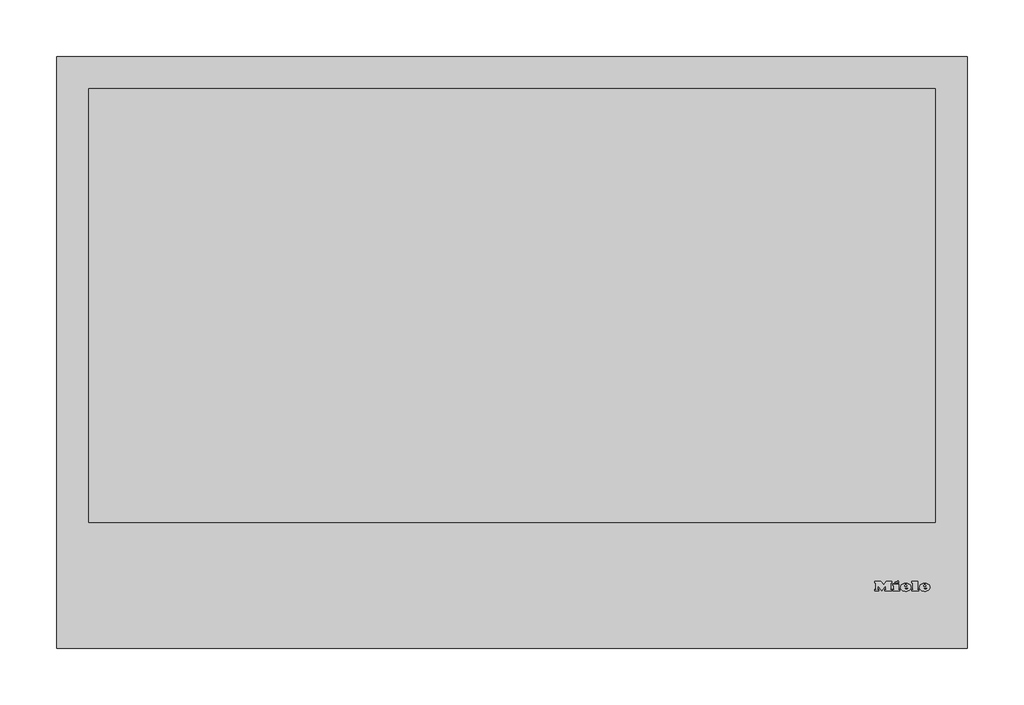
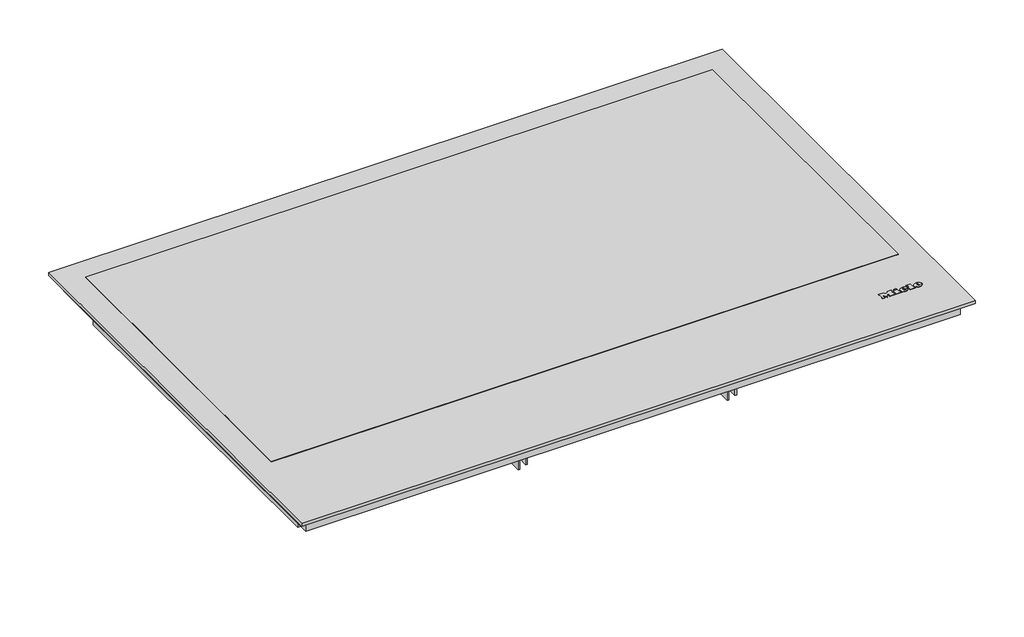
# Not in any storey: 1 proxy.
"""IFC4 building model written with IfcOpenShell, lengths in millimetres."""

import ifcopenshell
import ifcopenshell.guid

model = None  # the IFC model being written
_history = None  # IfcOwnerHistory: only IFC2X3 demands one
_inside = {}  # id of a spatial element -> (the spatial element, [elements in it])
_under = {}  # id of a project, library or spatial element -> (it, [spatial elements below it])
_declared = {}  # id of a project -> (the project, [libraries it declares])
_typed = {}  # id of a type object -> (the type object, [elements of that type])
_made_of = {}  # id of a material, layer set ... -> (it, [elements and type objects made of it])


def new_model(schema):
    """Start an empty IFC model of exactly this schema.

    Asked for "IFC4X3", IfcOpenShell would pick the latest addendum, in which some entities
    have other attributes; the version numbers below select the first issue.
    IFC2X3 requires an IfcOwnerHistory on every rooted entity: one is made here for all.
    """
    global model, _history
    if schema == "IFC4X3":
        model = ifcopenshell.file(schema_version=(4, 3, 0, 0))
    else:
        model = ifcopenshell.file(schema=schema)
    _inside.clear()
    _under.clear()
    _declared.clear()
    _typed.clear()
    _made_of.clear()
    _history = None
    if model.schema == "IFC2X3":
        org = make("IfcOrganization", Name="unknown")
        user = make(
            "IfcPersonAndOrganization",
            ThePerson=make("IfcPerson", FamilyName="unknown"),
            TheOrganization=org,
        )
        app = make(
            "IfcApplication",
            ApplicationDeveloper=org,
            Version="unknown",
            ApplicationFullName="unknown",
            ApplicationIdentifier="unknown",
        )
        _history = make(
            "IfcOwnerHistory",
            OwningUser=user,
            OwningApplication=app,
            ChangeAction="ADDED",
            CreationDate=0,
        )
    return model


def make(cls, **values):
    """One entity of the class cls with the attributes given. An attribute that is None is left unset."""
    return model.create_entity(
        cls, **{name: value for name, value in values.items() if value is not None}
    )


def rooted(cls, **values):
    """An entity with a GlobalId (a new one), such as an element, a storey or a relation."""
    return make(cls, GlobalId=ifcopenshell.guid.new(), OwnerHistory=_history, **values)


def si_unit(unit_type, name, prefix=None):
    """IfcSIUnit, for example si_unit("LENGTHUNIT", "METRE", prefix="MILLI")."""
    return make("IfcSIUnit", UnitType=unit_type, Prefix=prefix, Name=name)


def assignment(units):
    """IfcUnitAssignment: the units of a project."""
    return None if units is None else make("IfcUnitAssignment", Units=units)


def point(xyz):
    """IfcCartesianPoint."""
    return None if xyz is None else make("IfcCartesianPoint", Coordinates=xyz)


def direction(xyz):
    """IfcDirection."""
    return None if xyz is None else make("IfcDirection", DirectionRatios=xyz)


def frame(location, z_axis=None, x_axis=None):
    """IfcAxis2Placement3D, a coordinate frame: its origin and axes. An axis left out is left unset."""
    return make(
        "IfcAxis2Placement3D",
        Location=point(location),
        Axis=direction(z_axis),
        RefDirection=direction(x_axis),
    )


def frame_2d(location, x_axis=None):
    """IfcAxis2Placement2D, a coordinate frame in the plane: its origin and x axis."""
    return make(
        "IfcAxis2Placement2D", Location=point(location), RefDirection=direction(x_axis)
    )


def origin():
    """The frame at (0, 0, 0) with its axes left unset."""
    return frame((0.0, 0.0, 0.0))


def origin_with_axes():
    """The frame at (0, 0, 0) with the z axis (0, 0, 1) and the x axis (1, 0, 0) written out."""
    return frame((0.0, 0.0, 0.0), z_axis=(0.0, 0.0, 1.0), x_axis=(1.0, 0.0, 0.0))


def place(relative_to, where):
    """IfcLocalPlacement: puts the frame where relative to a parent placement (None: the world)."""
    return make(
        "IfcLocalPlacement", PlacementRelTo=relative_to, RelativePlacement=where
    )


def context(
    kind, dimensions, precision=None, world=None, true_north=None, identifier=None
):
    """IfcGeometricRepresentationContext, for example the 3D "Model" context."""
    return make(
        "IfcGeometricRepresentationContext",
        ContextIdentifier=identifier,
        ContextType=kind,
        CoordinateSpaceDimension=dimensions,
        Precision=precision,
        WorldCoordinateSystem=world,
        TrueNorth=true_north,
    )


def project(units=None, contexts=None):
    """IfcProject with its units and contexts."""
    return rooted(
        "IfcProject",
        Name="project",
        RepresentationContexts=contexts,
        UnitsInContext=assignment(units),
    )


def spatial(cls, under=None, at=None, **own):
    """A site, building, storey or space (cls), placed at a placement, below another one or the project."""
    s = rooted(cls, ObjectPlacement=at, **own)
    if under is not None:
        _under.setdefault(under.id(), (under, []))[1].append(s)
    return s


def polyline(points):
    """IfcPolyline through the points."""
    return make("IfcPolyline", Points=[point(p) for p in points])


def circle_curve(where, radius):
    """IfcCircle in the frame where."""
    return make("IfcCircle", Position=where, Radius=radius)


def ellipse_curve(where, semi_axis1, semi_axis2):
    """IfcEllipse in the frame where."""
    return make(
        "IfcEllipse", Position=where, SemiAxis1=semi_axis1, SemiAxis2=semi_axis2
    )


def trimmed(basis, trim1, trim2, sense, master):
    """IfcTrimmedCurve: the piece of a basis curve between two trims."""
    return make(
        "IfcTrimmedCurve",
        BasisCurve=basis,
        Trim1=trim1,
        Trim2=trim2,
        SenseAgreement=sense,
        MasterRepresentation=master,
    )


def segment(curve, same_sense, transition):
    """IfcCompositeCurveSegment."""
    return make(
        "IfcCompositeCurveSegment",
        Transition=transition,
        SameSense=same_sense,
        ParentCurve=curve,
    )


def composite_curve(segments, self_intersect=None):
    """IfcCompositeCurve: segments joined end to end."""
    return make("IfcCompositeCurve", Segments=segments, SelfIntersect=self_intersect)


def outline(outer, holes=None, kind="AREA"):
    """IfcArbitraryClosedProfileDef: a profile drawn as a closed curve; with holes, ...WithVoids."""
    if holes is None:
        return make("IfcArbitraryClosedProfileDef", ProfileType=kind, OuterCurve=outer)
    return make(
        "IfcArbitraryProfileDefWithVoids",
        ProfileType=kind,
        OuterCurve=outer,
        InnerCurves=holes,
    )


def extrude(swept, where, along, depth):
    """IfcExtrudedAreaSolid: the profile swept, set in the frame where, extruded along a direction by depth."""
    return make(
        "IfcExtrudedAreaSolid",
        SweptArea=swept,
        Position=where,
        ExtrudedDirection=direction(along),
        Depth=depth,
    )


def shape(context_of_items, identifier, shape_type, items):
    """IfcShapeRepresentation: the items that make up one representation, for example the "Body"."""
    return make(
        "IfcShapeRepresentation",
        ContextOfItems=context_of_items,
        RepresentationIdentifier=identifier,
        RepresentationType=shape_type,
        Items=items,
    )


def source(mapping_origin, context_of_items, identifier, shape_type, items):
    """IfcRepresentationMap: a shape defined once, which mapped items show again and again."""
    return make(
        "IfcRepresentationMap",
        MappingOrigin=mapping_origin,
        MappedRepresentation=shape(context_of_items, identifier, shape_type, items),
    )


def transform(
    local_origin,
    x_axis=None,
    y_axis=None,
    z_axis=None,
    scale=None,
    scale2=None,
    scale3=None,
    uniform=True,
):
    """IfcCartesianTransformationOperator3D, or its non-uniform kind. x_axis, y_axis, z_axis: its Axis1, 2, 3."""
    if uniform:
        return make(
            "IfcCartesianTransformationOperator3D",
            Axis1=direction(x_axis),
            Axis2=direction(y_axis),
            LocalOrigin=point(local_origin),
            Scale=scale,
            Axis3=direction(z_axis),
        )
    return make(
        "IfcCartesianTransformationOperator3DnonUniform",
        Axis1=direction(x_axis),
        Axis2=direction(y_axis),
        LocalOrigin=point(local_origin),
        Scale=scale,
        Axis3=direction(z_axis),
        Scale2=scale2,
        Scale3=scale3,
    )


def mapped(mapping_source, mapping_target):
    """IfcMappedItem: shows the shape of a source again, moved by a transform."""
    return make(
        "IfcMappedItem", MappingSource=mapping_source, MappingTarget=mapping_target
    )


def made_of(thing, what):
    """Note that an element or type object is made of a material, layer set ...; save() writes the relation."""
    if what is not None:
        _made_of.setdefault(what.id(), (what, []))[1].append(thing)
    return thing


def element(
    cls,
    number,
    at=None,
    inside=None,
    cuts=None,
    type_object=None,
    material=None,
    context=None,
    identifier="Body",
    shape_type=None,
    held_by="IfcProductDefinitionShape",
    body=None,
    shapes=None,
    **own,
):
    """One element of the class cls, such as IfcWall. Its Tag is "e" and its number.

    at: its placement. inside: the storey or other place that contains it. cuts: it is an
    opening in that element (IfcRelVoidsElement). A single representation is given by context,
    identifier, shape_type and body (its items); several are given by shapes. held_by: the class
    of the entity that holds the representations. save() writes the other relations.
    """
    e = rooted(cls, Tag="e%d" % number, ObjectPlacement=at, **own)
    if body is not None:
        shapes = [shape(context, identifier, shape_type, body)]
    if shapes is not None:
        e.Representation = make(held_by, Representations=shapes)
    if inside is not None:
        _inside.setdefault(inside.id(), (inside, []))[1].append(e)
    if cuts is not None:
        rooted(
            "IfcRelVoidsElement", RelatingBuildingElement=cuts, RelatedOpeningElement=e
        )
    if type_object is not None:
        _typed.setdefault(type_object.id(), (type_object, []))[1].append(e)
    return made_of(e, material)


def aggregate(whole, parts):
    """IfcRelAggregates: a whole, such as a stair, and the parts it consists of."""
    return rooted("IfcRelAggregates", RelatingObject=whole, RelatedObjects=parts)


def save(model, path):
    """Write the relations noted so far, then the file.

    IfcRelAggregates (storeys below a building ...), IfcRelContainedInSpatialStructure (elements
    in a storey), IfcRelDefinesByType, IfcRelAssociatesMaterial and IfcRelDeclares: one each for
    every whole, place, type object, material and project.
    """
    for whole, parts in _under.values():
        aggregate(whole, parts)
    for where, things in _inside.values():
        rooted(
            "IfcRelContainedInSpatialStructure",
            RelatedElements=things,
            RelatingStructure=where,
        )
    for kind, things in _typed.values():
        rooted("IfcRelDefinesByType", RelatedObjects=things, RelatingType=kind)
    for what, things in _made_of.values():
        rooted("IfcRelAssociatesMaterial", RelatedObjects=things, RelatingMaterial=what)
    for by, libraries in _declared.values():
        rooted("IfcRelDeclares", RelatingContext=by, RelatedDefinitions=libraries)
    model.write(path)


def plane_surface(at):
    """IfcPlane: the flat surface through the origin of the frame at, square to its z axis."""
    return make("IfcPlane", Position=at)


def cylinder_surface(at, radius):
    """IfcCylindricalSurface: all points at the distance radius from the z axis of the frame at."""
    return make("IfcCylindricalSurface", Position=at, Radius=radius)


def revolved_surface(curve, axis_point, axis_direction):
    """IfcSurfaceOfRevolution: the curve turned about the line through axis_point along axis_direction."""
    return make(
        "IfcSurfaceOfRevolution",
        SweptCurve=make("IfcArbitraryOpenProfileDef", ProfileType="CURVE", Curve=curve),
        AxisPosition=make("IfcAxis1Placement", Location=point(axis_point), Axis=direction(axis_direction)),
    )


def extruded_surface(curve, direction_of_extrusion, depth):
    """IfcSurfaceOfLinearExtrusion: the curve pushed along a direction by depth."""
    return make(
        "IfcSurfaceOfLinearExtrusion",
        SweptCurve=make("IfcArbitraryOpenProfileDef", ProfileType="CURVE", Curve=curve),
        ExtrudedDirection=direction(direction_of_extrusion),
        Depth=depth,
    )


def advanced_brep(points, edges, surfaces, faces):
    """IfcAdvancedBrep: a solid bounded by faces that lie on surfaces and meet in shared edges.

    An edge is (start, end): straight between two places in points (the first is 0);
    or (start, end, curve); or (start, end, curve, False) where it runs against its curve.
    A face is (place in surfaces, loops), or (place, loops, False) where it looks against
    its surface's normal. A loop lists edges by number (the first is 1), with a minus sign
    where the edge is run from its end to its start. The first loop is the outer one.
    """
    corners = [point(p) for p in points]
    vertices = [make("IfcVertexPoint", VertexGeometry=c) for c in corners]
    made = []
    for start, end, *more in edges:
        made.append(
            make(
                "IfcEdgeCurve",
                EdgeStart=vertices[start],
                EdgeEnd=vertices[end],
                EdgeGeometry=more[0] if more else make("IfcPolyline", Points=[corners[start], corners[end]]),
                SameSense=more[1] if len(more) > 1 else True,
            )
        )
    hull = []
    for where, loops, *sense in faces:
        bounds = []
        for j, loop in enumerate(loops):
            ring = [make("IfcOrientedEdge", EdgeElement=made[abs(k) - 1], Orientation=k > 0) for k in loop]
            bounds.append(
                make(
                    "IfcFaceOuterBound" if j == 0 else "IfcFaceBound",
                    Bound=make("IfcEdgeLoop", EdgeList=ring),
                    Orientation=True,
                )
            )
        hull.append(make("IfcAdvancedFace", Bounds=bounds, FaceSurface=surfaces[where], SameSense=sense[0] if sense else True))
    return make("IfcAdvancedBrep", Outer=make("IfcClosedShell", CfsFaces=hull))


def specialty_equipment_575d8ab1(model_context):
    return source(origin(), model_context, "Body", "SolidModel", [
        advanced_brep(
        [(362.06, 52.3948833, 4.4802537), (362.06, 53.2028828, 4.4811551), (367.412, 53.2028828, 4.4811551), (358.1, 53.2028828, 4.4811551), (360.3, 50.4988845, 4.4781386), (367.276, 52.3948833, 4.4802537), (364.86, 52.3948833, 4.4802537), (362.956, 51.4988838, 4.4792542), (362.06, 54.2268821, 4.4822974), (362.06, 55.0988816, 4.4832701), (363.428, 55.0988816, 4.4832701), (363.428, 54.2268821, 4.4822974), (362.06, 52.3959988, 3.4802543), (362.956, 51.4999994, 3.4792548), (364.86, 52.3959988, 3.4802543), (367.276, 52.3959988, 3.4802543), (360.3, 50.5, 3.4781393), (358.1, 53.2039983, 3.4811557), (367.412, 53.2039983, 3.4811557), (362.06, 53.2039983, 3.4811557), (362.06, 54.2279977, 3.482298), (363.428, 54.2279977, 3.482298), (363.428, 55.0999971, 3.4832707), (362.06, 55.0999971, 3.4832707)],
        [
            (0, 1),
            (1, 2),
            (2, 3, ellipse_curve(frame((362.756, 53.2028828, 4.4811551), z_axis=(0.0, -0.0011155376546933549, 0.9999993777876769), x_axis=(-1.0, 0.0, 0.0)), 4.656, 3.848)),
            (3, 4, circle_curve(frame((361.1960436, 53.4748826, 4.4814585), z_axis=(0.0, -0.0011155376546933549, 0.9999993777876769), x_axis=(0.0, -0.9999993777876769, -0.0011155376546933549)), 3.1079688)),
            (4, 5, circle_curve(frame((362.6627936, 55.5868813, 4.4838145), z_axis=(0.0, -0.0011155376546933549, 0.9999993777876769), x_axis=(0.0, -0.9999993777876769, -0.0011155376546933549)), 5.6098607)),
            (5, 6),
            (6, 7, circle_curve(frame((363.3470588, 53.1388828, 4.4810837), z_axis=(0.0, 0.0011155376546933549, -0.9999993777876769), x_axis=(0.0, -0.9999993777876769, -0.0011155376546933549)), 1.6859795)),
            (7, 0, circle_curve(frame((362.956, 52.3948833, 4.4802537), z_axis=(0.0, 0.0011155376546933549, -0.9999993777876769), x_axis=(0.0, -0.9999993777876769, -0.0011155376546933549)), 0.896)),
            (8, 9),
            (9, 10, circle_curve(frame((362.744, 55.0988816, 4.4832701), z_axis=(0.0, 0.0011155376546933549, -0.9999993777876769), x_axis=(0.0, -0.9999993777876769, -0.0011155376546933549)), 0.684)),
            (10, 11),
            (11, 8),
            (12, 13, circle_curve(frame((362.956, 52.3959988, 3.4802543), z_axis=(0.0, -0.0011155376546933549, 0.9999993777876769), x_axis=(0.0, -0.9999993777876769, -0.0011155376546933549)), 0.896)),
            (13, 14, circle_curve(frame((363.3470588, 53.1399984, 3.4810843), z_axis=(0.0, -0.0011155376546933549, 0.9999993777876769), x_axis=(0.0, -0.9999993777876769, -0.0011155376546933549)), 1.6859795)),
            (14, 15),
            (15, 16, circle_curve(frame((362.6627936, 55.5879968, 3.4838151), z_axis=(0.0, 0.0011155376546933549, -0.9999993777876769), x_axis=(0.0, -0.9999993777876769, -0.0011155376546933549)), 5.6098607)),
            (16, 17, circle_curve(frame((361.1960436, 53.4759981, 3.4814591), z_axis=(0.0, 0.0011155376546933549, -0.9999993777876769), x_axis=(0.0, -0.9999993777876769, -0.0011155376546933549)), 3.1079688)),
            (17, 18, ellipse_curve(frame((362.756, 53.2039983, 3.4811557), z_axis=(0.0, 0.0011155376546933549, -0.9999993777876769), x_axis=(-1.0, 0.0, 0.0)), 4.656, 3.848)),
            (18, 19),
            (19, 12),
            (20, 21),
            (21, 22),
            (22, 23, circle_curve(frame((362.744, 55.0999971, 3.4832707), z_axis=(0.0, -0.0011155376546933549, 0.9999993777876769), x_axis=(0.0, -0.9999993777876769, -0.0011155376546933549)), 0.684)),
            (23, 20),
            (0, 12),
            (19, 1),
            (18, 2),
            (5, 15),
            (14, 6),
            (17, 3),
            (13, 7),
            (16, 4),
            (8, 20),
            (23, 9),
            (22, 10),
            (21, 11),
        ],
        [
            plane_surface(frame((362.06, 53.2028828, 4.4811551), z_axis=(0.0, -0.0011155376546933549, 0.9999993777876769), x_axis=(0.0, 0.9999993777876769, 0.0011155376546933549))),
            plane_surface(frame((362.06, 53.2039983, 3.4811557), z_axis=(0.0, 0.0011155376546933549, -0.9999993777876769), x_axis=(0.0, -0.9999993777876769, -0.0011155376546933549))),
            plane_surface(frame((362.06, 52.3948833, 4.4802537), z_axis=(1.0000000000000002, 0.0, 0.0), x_axis=(0.0, 0.001115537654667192, -0.999999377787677))),
            plane_surface(frame((362.06, 53.2028828, 4.4811551), z_axis=(0.0, -0.999999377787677, -0.001115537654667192), x_axis=(0.0, 0.001115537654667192, -0.999999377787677))),
            plane_surface(frame((367.276, 52.3948833, 4.4802537), z_axis=(0.0, 0.999999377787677, 0.001115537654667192), x_axis=(0.0, 0.001115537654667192, -0.999999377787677))),
            extruded_surface(trimmed(ellipse_curve(frame((362.756, 53.2051139, 2.4811563), z_axis=(0.0, -0.0011155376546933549, 0.9999993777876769), x_axis=(-1.0, 0.0, 0.0)), 4.656, 3.848), [point((367.412, 53.2051139, 2.4811563))], [point((358.1, 53.2051139, 2.4811563))], True, "CARTESIAN"), (0.0, -0.001115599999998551, 0.9999994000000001), 1.00000002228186),
            revolved_surface(polyline([(363.3470588, 51.454019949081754, 3.479203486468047), (363.3470588, 51.45290441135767, 4.4792029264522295)]), (363.3470588, 53.1399984, 3.4810843), (0.0, 0.0011155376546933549, -0.9999993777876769)),
            revolved_surface(polyline([(362.956, 51.49999935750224, 3.4792547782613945), (362.956, 51.49888381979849, 4.479254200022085)]), (362.956, 52.3959988, 3.4802543), (0.0, 0.0011155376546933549, -0.9999993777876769)),
            cylinder_surface(frame((361.1960436, 53.4759981, 3.4814591), z_axis=(0.0, -0.0011155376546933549, 0.9999993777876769), x_axis=(0.0, -0.9999993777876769, -0.0011155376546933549)), 3.1079688),
            cylinder_surface(frame((362.6627936, 55.5879968, 3.4838151), z_axis=(0.0, -0.0011155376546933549, 0.9999993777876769), x_axis=(0.0, -0.9999993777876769, -0.0011155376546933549)), 5.6098607),
            plane_surface(frame((362.06, 54.2268821, 4.4822974), z_axis=(1.0000000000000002, 0.0, 0.0), x_axis=(0.0, 0.001115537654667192, -0.999999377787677))),
            revolved_surface(polyline([(362.744, 54.415997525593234, 3.4825076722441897), (362.744, 54.41488198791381, 4.482507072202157)]), (362.744, 55.0999971, 3.4832707), (0.0, 0.0011155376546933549, -0.9999993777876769)),
            plane_surface(frame((363.428, 55.0988816, 4.4832701), z_axis=(-1.0000000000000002, 0.0, 0.0), x_axis=(0.0, 0.001115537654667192, -0.999999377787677))),
            plane_surface(frame((363.428, 54.2268821, 4.4822974), z_axis=(0.0, 0.999999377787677, 0.001115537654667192), x_axis=(0.0, 0.001115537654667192, -0.999999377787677))),
        ],
        [
            (0, [[1, 2, 3, 4, 5, 6, 7, 8], [9, 10, 11, 12]]),
            (1, [[13, 14, 15, 16, 17, 18, 19, 20], [21, 22, 23, 24]]),
            (2, [[-1, 25, -20, 26]]),
            (3, [[-2, -26, -19, 27]]),
            (4, [[-6, 28, -15, 29]]),
            (5, [[-3, -27, -18, 30]]),
            (6, [[-7, -29, -14, 31]]),
            (7, [[-8, -31, -13, -25]]),
            (8, [[-4, -30, -17, 32]]),
            (9, [[-5, -32, -16, -28]]),
            (10, [[-9, 33, -24, 34]]),
            (11, [[-10, -34, -23, 35]]),
            (12, [[-11, -35, -22, 36]]),
            (13, [[-12, -36, -21, -33]]),
        ],
    ),
        advanced_brep(
        [(345.364, 52.3948833, 4.4802537), (345.364, 53.2028828, 4.4811551), (350.716, 53.2028828, 4.4811551), (341.404, 53.2028828, 4.4811551), (343.604, 50.4988845, 4.4781386), (350.58, 52.3948833, 4.4802537), (348.164, 52.3948833, 4.4802537), (346.26, 51.4988838, 4.4792542), (345.364, 54.2268821, 4.4822974), (345.364, 55.0988816, 4.4832701), (346.732, 55.0988816, 4.4832701), (346.732, 54.2268821, 4.4822974), (345.364, 52.3959988, 3.4802543), (346.26, 51.4999994, 3.4792548), (348.164, 52.3959988, 3.4802543), (350.58, 52.3959988, 3.4802543), (343.604, 50.5, 3.4781393), (341.404, 53.2039983, 3.4811557), (350.716, 53.2039983, 3.4811557), (345.364, 53.2039983, 3.4811557), (345.364, 54.2279977, 3.482298), (346.732, 54.2279977, 3.482298), (346.732, 55.0999971, 3.4832707), (345.364, 55.0999971, 3.4832707)],
        [
            (0, 1),
            (1, 2),
            (2, 3, ellipse_curve(frame((346.06, 53.2028828, 4.4811551), z_axis=(0.0, -0.0011155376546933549, 0.9999993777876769), x_axis=(-1.0, 0.0, 0.0)), 4.656, 3.848)),
            (3, 4, circle_curve(frame((344.5000436, 53.4748826, 4.4814585), z_axis=(0.0, -0.0011155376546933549, 0.9999993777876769), x_axis=(0.0, -0.9999993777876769, -0.0011155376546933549)), 3.1079688)),
            (4, 5, circle_curve(frame((345.9667936, 55.5868813, 4.4838145), z_axis=(0.0, -0.0011155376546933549, 0.9999993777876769), x_axis=(0.0, -0.9999993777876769, -0.0011155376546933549)), 5.6098607)),
            (5, 6),
            (6, 7, circle_curve(frame((346.6510588, 53.1388828, 4.4810837), z_axis=(0.0, 0.0011155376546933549, -0.9999993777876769), x_axis=(0.0, -0.9999993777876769, -0.0011155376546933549)), 1.6859795)),
            (7, 0, circle_curve(frame((346.26, 52.3948833, 4.4802537), z_axis=(0.0, 0.0011155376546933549, -0.9999993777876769), x_axis=(0.0, -0.9999993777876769, -0.0011155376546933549)), 0.896)),
            (8, 9),
            (9, 10, circle_curve(frame((346.048, 55.0988816, 4.4832701), z_axis=(0.0, 0.0011155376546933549, -0.9999993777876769), x_axis=(0.0, -0.9999993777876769, -0.0011155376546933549)), 0.684)),
            (10, 11),
            (11, 8),
            (12, 13, circle_curve(frame((346.26, 52.3959988, 3.4802543), z_axis=(0.0, -0.0011155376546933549, 0.9999993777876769), x_axis=(0.0, -0.9999993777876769, -0.0011155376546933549)), 0.896)),
            (13, 14, circle_curve(frame((346.6510588, 53.1399984, 3.4810843), z_axis=(0.0, -0.0011155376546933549, 0.9999993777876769), x_axis=(0.0, -0.9999993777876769, -0.0011155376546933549)), 1.6859795)),
            (14, 15),
            (15, 16, circle_curve(frame((345.9667936, 55.5879968, 3.4838151), z_axis=(0.0, 0.0011155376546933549, -0.9999993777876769), x_axis=(0.0, -0.9999993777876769, -0.0011155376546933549)), 5.6098607)),
            (16, 17, circle_curve(frame((344.5000436, 53.4759981, 3.4814591), z_axis=(0.0, 0.0011155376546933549, -0.9999993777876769), x_axis=(0.0, -0.9999993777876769, -0.0011155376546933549)), 3.1079688)),
            (17, 18, ellipse_curve(frame((346.06, 53.2039983, 3.4811557), z_axis=(0.0, 0.0011155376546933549, -0.9999993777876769), x_axis=(-1.0, 0.0, 0.0)), 4.656, 3.848)),
            (18, 19),
            (19, 12),
            (20, 21),
            (21, 22),
            (22, 23, circle_curve(frame((346.048, 55.0999971, 3.4832707), z_axis=(0.0, -0.0011155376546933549, 0.9999993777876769), x_axis=(0.0, -0.9999993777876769, -0.0011155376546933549)), 0.684)),
            (23, 20),
            (0, 12),
            (19, 1),
            (18, 2),
            (5, 15),
            (14, 6),
            (17, 3),
            (13, 7),
            (16, 4),
            (8, 20),
            (23, 9),
            (22, 10),
            (21, 11),
        ],
        [
            plane_surface(frame((345.364, 53.2028828, 4.4811551), z_axis=(0.0, -0.0011155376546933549, 0.9999993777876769), x_axis=(0.0, 0.9999993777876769, 0.0011155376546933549))),
            plane_surface(frame((345.364, 53.2039983, 3.4811557), z_axis=(0.0, 0.0011155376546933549, -0.9999993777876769), x_axis=(0.0, -0.9999993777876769, -0.0011155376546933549))),
            plane_surface(frame((345.364, 52.3948833, 4.4802537), z_axis=(1.0000000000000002, 0.0, 0.0), x_axis=(0.0, 0.001115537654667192, -0.999999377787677))),
            plane_surface(frame((345.364, 53.2028828, 4.4811551), z_axis=(0.0, -0.999999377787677, -0.001115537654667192), x_axis=(0.0, 0.001115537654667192, -0.999999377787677))),
            plane_surface(frame((350.58, 52.3948833, 4.4802537), z_axis=(0.0, 0.999999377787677, 0.001115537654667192), x_axis=(0.0, 0.001115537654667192, -0.999999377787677))),
            extruded_surface(trimmed(ellipse_curve(frame((346.06, 53.2051139, 2.4811563), z_axis=(0.0, -0.0011155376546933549, 0.9999993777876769), x_axis=(-1.0, 0.0, 0.0)), 4.656, 3.848), [point((350.716, 53.2051139, 2.4811563))], [point((341.404, 53.2051139, 2.4811563))], True, "CARTESIAN"), (0.0, -0.001115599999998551, 0.9999994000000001), 1.00000002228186),
            revolved_surface(polyline([(346.6510588, 51.454019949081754, 3.479203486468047), (346.6510588, 51.45290441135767, 4.4792029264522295)]), (346.6510588, 53.1399984, 3.4810843), (0.0, 0.0011155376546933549, -0.9999993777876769)),
            revolved_surface(polyline([(346.26, 51.49999935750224, 3.4792547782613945), (346.26, 51.49888381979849, 4.479254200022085)]), (346.26, 52.3959988, 3.4802543), (0.0, 0.0011155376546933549, -0.9999993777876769)),
            cylinder_surface(frame((344.5000436, 53.4759981, 3.4814591), z_axis=(0.0, -0.0011155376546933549, 0.9999993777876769), x_axis=(0.0, -0.9999993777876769, -0.0011155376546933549)), 3.1079688),
            cylinder_surface(frame((345.9667936, 55.5879968, 3.4838151), z_axis=(0.0, -0.0011155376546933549, 0.9999993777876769), x_axis=(0.0, -0.9999993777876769, -0.0011155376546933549)), 5.6098607),
            plane_surface(frame((345.364, 54.2268821, 4.4822974), z_axis=(1.0000000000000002, 0.0, 0.0), x_axis=(0.0, 0.001115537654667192, -0.999999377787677))),
            revolved_surface(polyline([(346.048, 54.415997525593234, 3.4825076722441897), (346.048, 54.41488198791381, 4.482507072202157)]), (346.048, 55.0999971, 3.4832707), (0.0, 0.0011155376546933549, -0.9999993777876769)),
            plane_surface(frame((346.732, 55.0988816, 4.4832701), z_axis=(-1.0000000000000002, 0.0, 0.0), x_axis=(0.0, 0.001115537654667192, -0.999999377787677))),
            plane_surface(frame((346.732, 54.2268821, 4.4822974), z_axis=(0.0, 0.999999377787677, 0.001115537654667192), x_axis=(0.0, 0.001115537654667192, -0.999999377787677))),
        ],
        [
            (0, [[1, 2, 3, 4, 5, 6, 7, 8], [9, 10, 11, 12]]),
            (1, [[13, 14, 15, 16, 17, 18, 19, 20], [21, 22, 23, 24]]),
            (2, [[-1, 25, -20, 26]]),
            (3, [[-2, -26, -19, 27]]),
            (4, [[-6, 28, -15, 29]]),
            (5, [[-3, -27, -18, 30]]),
            (6, [[-7, -29, -14, 31]]),
            (7, [[-8, -31, -13, -25]]),
            (8, [[-4, -30, -17, 32]]),
            (9, [[-5, -32, -16, -28]]),
            (10, [[-9, 33, -24, 34]]),
            (11, [[-10, -34, -23, 35]]),
            (12, [[-11, -35, -22, 36]]),
            (13, [[-12, -36, -21, -33]]),
        ],
    ),
        extrude(outline(polyline([(0.0, 0.0), (-0.0109086, -2.9993294), (-1.4390415, -2.9920868), (-1.4315307, 0.0), (0.0, 0.0)])), frame((336.62, 58.0279953, 3.486537), z_axis=(0.0, -0.001115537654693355, 0.999999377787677), x_axis=(-0.4247202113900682, 0.9053240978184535, 0.0010099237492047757)), (0.0, 0.0, 1.0), 1.0),
        extrude(outline(polyline([(-0.4933908, 2.4141097), (-2.7800844, -2.4601583), (-7.0459741, -0.4588767), (-7.4401145, -1.299018), (-8.6568709, -0.728194), (-5.9760369, 4.9862153), (-4.7592805, 4.4153913), (-5.1636142, 3.5535222), (-2.1941493, 2.1604399), (-1.7898157, 3.022309), (-0.4933908, 2.4141097)])), frame((336.62, 58.0279953, 3.486537), z_axis=(0.0, -0.001115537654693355, 0.999999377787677), x_axis=(-0.4247202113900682, 0.9053240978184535, 0.0010099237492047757)), (0.0, 0.0, 1.0), 1.0),
        extrude(outline(polyline([(0.0, 0.0), (0.0, -1.304), (-5.504, -1.304), (-5.504, 5.3519999), (-6.488, 5.3519999), (-6.488, 6.696), (0.0, 6.696), (0.0, 5.3519999), (-0.96, 5.3519999), (-0.96, 0.0), (0.0, 0.0)])), frame((351.164, 57.1959958, 3.4856089), z_axis=(0.0, -0.0011155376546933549, 0.9999993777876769), x_axis=(-1.0, 0.0, 0.0)), (0.0, 0.0, 1.0), 1.0),
        extrude(outline(polyline([(0.0, 0.0), (0.0, -1.304), (-5.576, -1.304), (-7.92, 1.696), (-10.256, -1.304), (-15.128, -1.304), (-15.128, 0.0), (-14.112, 0.0), (-14.112, 5.3519999), (-15.128, 5.3519999), (-15.128, 6.696), (-8.744, 6.696), (-8.744, 5.3519999), (-9.728, 5.3519999), (-9.728, 1.8807777), (-6.136, 6.696), (-2.56, 1.9488752), (-2.56, 5.3519999), (-3.52, 5.3519999), (-3.52, 6.696), (0.0, 6.696), (0.0, 5.3519999), (-0.968, 5.3519999), (-0.968, 0.0), (0.0, 0.0)])), frame((318.7, 57.1959958, 3.4856089), z_axis=(0.0, -0.0011155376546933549, 0.9999993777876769), x_axis=(-1.0, 0.0, 0.0)), (0.0, 0.0, 1.0), 1.0),
        extrude(outline(polyline([(316.2772603, 459.5), (308.9, 459.5), (308.9, 460.7557039), (315.0215564, 460.7557039), (315.0215564, 464.0519266), (309.370889, 464.0519266), (309.370889, 465.3076304), (315.0215564, 465.3076304), (315.0215564, 468.2899271), (309.056963, 468.2899271), (309.056963, 469.545631), (316.2772603, 469.545631), (316.2772603, 459.5)])), frame((0.0, 0.0, -77.5), z_axis=(0.0, 0.0, 1.0), x_axis=(1.0, 0.0, 0.0)), (0.0, 0.0, 1.0), 1.0),
        extrude(outline(polyline([(307.0164442, 459.5), (300.7379248, 459.5), (300.7379248, 460.7557039), (305.7607403, 460.7557039), (305.7607403, 469.545631), (307.0164442, 469.545631), (307.0164442, 459.5)])), frame((0.0, 0.0, -77.5), z_axis=(0.0, 0.0, 1.0), x_axis=(1.0, 0.0, 0.0)), (0.0, 0.0, 1.0), 1.0),
        extrude(outline(polyline([(14.0, -27.0), (14.0, -16.8), (58.0, -16.8), (58.0, -43.0), (30.0, -43.0), (30.0, -27.0), (14.0, -27.0)])), frame((122.6666667, 0.0, 0.0), z_axis=(1.0, 0.0, 0.0), x_axis=(0.0, 1.0, 0.0)), (0.0, 0.0, 1.0), 2.0),
        extrude(outline(polyline([(478.0, -16.8), (506.0, -16.8), (506.0, -27.0), (490.0, -27.0), (490.0, -43.0), (478.0, -43.0), (478.0, -16.8)])), frame((122.6666667, 0.0, 0.0), z_axis=(1.0, 0.0, 0.0), x_axis=(0.0, 1.0, 0.0)), (0.0, 0.0, 1.0), 2.0),
        extrude(outline(polyline([(14.0, -27.0), (14.0, -16.8), (58.0, -16.8), (58.0, -43.0), (30.0, -43.0), (30.0, -27.0), (14.0, -27.0)])), frame((-125.6666667, 0.0, 0.0), z_axis=(1.0, 0.0, 0.0), x_axis=(0.0, 1.0, 0.0)), (0.0, 0.0, 1.0), 2.0),
        extrude(outline(polyline([(490.0, -27.0), (490.0, -43.0), (478.0, -43.0), (478.0, -16.8), (506.0, -16.8), (506.0, -27.0), (490.0, -27.0)])), frame((-125.6666667, 0.0, 0.0), z_axis=(1.0, 0.0, 0.0), x_axis=(0.0, 1.0, 0.0)), (0.0, 0.0, 1.0), 2.0),
        extrude(outline(polyline([(371.0, 478.0), (371.0, 58.0), (-371.0, 58.0), (-371.0, 478.0), (371.0, 478.0)])), frame((0.0, 0.0, -46.5), z_axis=(0.0, 0.0, 1.0), x_axis=(1.0, 0.0, 0.0)), (0.0, 0.0, 1.0), 29.7),
        extrude(outline(polyline([(400.0, 520.0), (400.0, 0.0), (-400.0, 0.0), (-400.0, 520.0), (400.0, 520.0)])), origin_with_axes(), (0.0, 0.0, 1.0), 4.0),
        extrude(outline(polyline([(388.5, 508.5), (388.5, 11.5), (-388.5, 11.5), (-388.5, 508.5), (388.5, 508.5)])), frame((0.0, 0.0, -16.8), z_axis=(0.0, 0.0, 1.0), x_axis=(1.0, 0.0, 0.0)), (0.0, 0.0, 1.0), 16.8),
        extrude(outline(composite_curve([segment(trimmed(circle_curve(frame_2d((308.9, 464.5)), 7.5), [point((308.9, 472.0))], [point((308.9, 457.0))], False, "CARTESIAN"), True, "CONTINUOUS"), segment(trimmed(circle_curve(frame_2d((308.9, 464.5)), 7.5), [point((308.9, 457.0))], [point((308.9, 472.0))], False, "CARTESIAN"), True, "CONTINUOUS")], self_intersect=False)), frame((0.0, 0.0, -76.5), z_axis=(0.0, 0.0, 1.0), x_axis=(1.0, 0.0, 0.0)), (0.0, 0.0, 1.0), 30.0),
        extrude(outline(polyline([(372.0, 492.05), (372.0, 110.55), (-372.0, 110.55), (-372.0, 492.05), (372.0, 492.05)])), frame((0.0, 0.0, 4.0), z_axis=(0.0, 0.0, 1.0), x_axis=(1.0, 0.0, 0.0)), (0.0, 0.0, 1.0), 1.0),
        extrude(outline(composite_curve([segment(trimmed(circle_curve(frame_2d((-381.0, 80.0)), 3.0), [point((-381.0, 83.0))], [point((-381.0, 77.0))], False, "CARTESIAN"), True, "CONTINUOUS"), segment(trimmed(circle_curve(frame_2d((-381.0, 80.0)), 3.0), [point((-381.0, 77.0))], [point((-381.0, 83.0))], False, "CARTESIAN"), True, "CONTINUOUS")], self_intersect=False)), frame((0.0, 0.0, -22.0), z_axis=(0.0, 0.0, 1.0), x_axis=(1.0, 0.0, 0.0)), (0.0, 0.0, 1.0), 5.2),
        extrude(outline(composite_curve([segment(trimmed(circle_curve(frame_2d((381.0, 440.0)), 3.0), [point((381.0, 443.0))], [point((381.0, 437.0))], False, "CARTESIAN"), True, "CONTINUOUS"), segment(trimmed(circle_curve(frame_2d((381.0, 440.0)), 3.0), [point((381.0, 437.0))], [point((381.0, 443.0))], False, "CARTESIAN"), True, "CONTINUOUS")], self_intersect=False)), frame((0.0, 0.0, -22.0), z_axis=(0.0, 0.0, 1.0), x_axis=(1.0, 0.0, 0.0)), (0.0, 0.0, 1.0), 5.2),
    ])


model = new_model("IFC4")

# Units and contexts
model_context = context("Model", 3, world=origin())
ifc_project = project(units=[si_unit("LENGTHUNIT", "METRE", prefix="MILLI")], contexts=[model_context])

# Site, building
site = spatial("IfcSite", under=ifc_project)
building = spatial("IfcBuilding", under=site)

# Proxy
placement = place(None, origin())
specialty_equipment_shape = specialty_equipment_575d8ab1(model_context)
element("IfcBuildingElementProxy", 1, Name="12158540_D_KM7878-1FL : 26787873_D_12158540_KM7878-1FL", ObjectType="12158540_D_KM7878-1FL : 26787873_D_12158540_KM7878-1FL", at=placement, inside=building, context=model_context, shape_type="MappedRepresentation", body=[
    mapped(specialty_equipment_shape, transform((0.0, 0.0, 0.0), x_axis=(1.0, 0.0, 0.0), y_axis=(0.0, 1.0, 0.0), z_axis=(0.0, 0.0, 1.0))),
])

save(model, "model.ifc")
